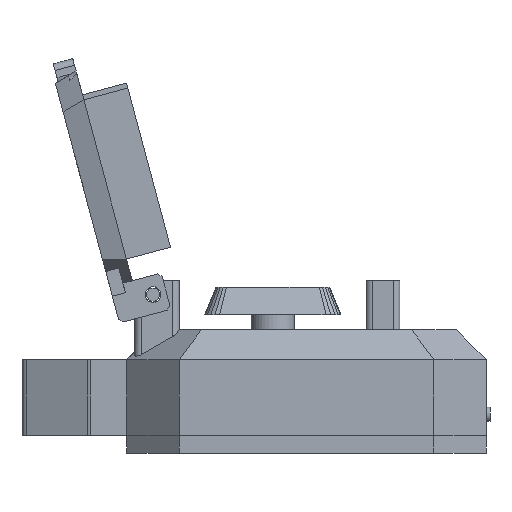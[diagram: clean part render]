
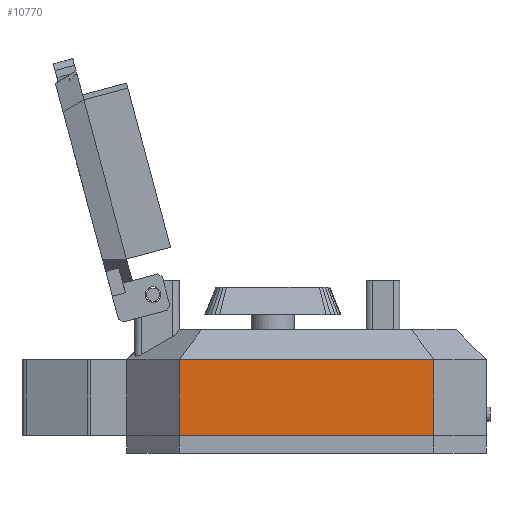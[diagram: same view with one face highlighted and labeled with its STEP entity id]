
A CAD part, left-side view. The second image highlights one B-rep face of the part: STEP entity #10770.
In plain terms, the highlighted planar face has unit normal (-1, 0, 0).
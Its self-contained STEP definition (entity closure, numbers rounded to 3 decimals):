
#94 = PLANE('',#95);
#95 = AXIS2_PLACEMENT_3D('',#96,#97,#98);
#96 = CARTESIAN_POINT('',(0.,0.,2.4));
#97 = DIRECTION('',(0.,0.,1.));
#98 = DIRECTION('',(1.,0.,-0.));
#122 = PLANE('',#123);
#123 = AXIS2_PLACEMENT_3D('',#124,#125,#126);
#124 = CARTESIAN_POINT('',(-27.,-17.,2.4));
#125 = DIRECTION('',(0.707,0.707,-0.));
#126 = DIRECTION('',(0.707,-0.707,0.));
#8214 = B_SPLINE_SURFACE_WITH_KNOTS('',1,1,(
    (#8215,#8216)
    ,(#8217,#8218
    )),.UNSPECIFIED.,.F.,.F.,.F.,(2,2),(2,2),(0.,34.),(0.,1.),
  .PIECEWISE_BEZIER_KNOTS.);
#8215 = CARTESIAN_POINT('',(-27.,17.,12.5));
#8216 = CARTESIAN_POINT('',(-23.,14.037,16.5));
#8217 = CARTESIAN_POINT('',(-27.,-17.,12.5));
#8218 = CARTESIAN_POINT('',(-23.,-14.037,16.5));
#10286 = VERTEX_POINT('',#10287);
#10287 = CARTESIAN_POINT('',(-27.,17.,12.5));
#10300 = PLANE('',#10301);
#10301 = AXIS2_PLACEMENT_3D('',#10302,#10303,#10304);
#10302 = CARTESIAN_POINT('',(-20.,24.,2.4));
#10303 = DIRECTION('',(0.707,-0.707,0.));
#10304 = DIRECTION('',(-0.707,-0.707,0.));
#10722 = EDGE_CURVE('',#10723,#10286,#10725,.T.);
#10723 = VERTEX_POINT('',#10724);
#10724 = CARTESIAN_POINT('',(-27.,17.,2.4));
#10725 = SURFACE_CURVE('',#10726,(#10730,#10737),.PCURVE_S1.);
#10726 = LINE('',#10727,#10728);
#10727 = CARTESIAN_POINT('',(-27.,17.,2.4));
#10728 = VECTOR('',#10729,1.);
#10729 = DIRECTION('',(0.,0.,1.));
#10730 = PCURVE('',#10300,#10731);
#10731 = DEFINITIONAL_REPRESENTATION('',(#10732),#10736);
#10732 = LINE('',#10733,#10734);
#10733 = CARTESIAN_POINT('',(9.899,0.));
#10734 = VECTOR('',#10735,1.);
#10735 = DIRECTION('',(0.,-1.));
#10736 = ( GEOMETRIC_REPRESENTATION_CONTEXT(2) 
PARAMETRIC_REPRESENTATION_CONTEXT() REPRESENTATION_CONTEXT('2D SPACE',''
  ) );
#10737 = PCURVE('',#10738,#10743);
#10738 = PLANE('',#10739);
#10739 = AXIS2_PLACEMENT_3D('',#10740,#10741,#10742);
#10740 = CARTESIAN_POINT('',(-27.,17.,2.4));
#10741 = DIRECTION('',(1.,0.,-0.));
#10742 = DIRECTION('',(0.,-1.,0.));
#10743 = DEFINITIONAL_REPRESENTATION('',(#10744),#10748);
#10744 = LINE('',#10745,#10746);
#10745 = CARTESIAN_POINT('',(0.,0.));
#10746 = VECTOR('',#10747,1.);
#10747 = DIRECTION('',(0.,-1.));
#10748 = ( GEOMETRIC_REPRESENTATION_CONTEXT(2) 
PARAMETRIC_REPRESENTATION_CONTEXT() REPRESENTATION_CONTEXT('2D SPACE',''
  ) );
#10770 = ADVANCED_FACE('',(#10771),#10738,.F.);
#10771 = FACE_BOUND('',#10772,.F.);
#10772 = EDGE_LOOP('',(#10773,#10774,#10796,#10819));
#10773 = ORIENTED_EDGE('',*,*,#10722,.T.);
#10774 = ORIENTED_EDGE('',*,*,#10775,.T.);
#10775 = EDGE_CURVE('',#10286,#10776,#10778,.T.);
#10776 = VERTEX_POINT('',#10777);
#10777 = CARTESIAN_POINT('',(-27.,-17.,12.5));
#10778 = SURFACE_CURVE('',#10779,(#10783,#10790),.PCURVE_S1.);
#10779 = LINE('',#10780,#10781);
#10780 = CARTESIAN_POINT('',(-27.,17.,12.5));
#10781 = VECTOR('',#10782,1.);
#10782 = DIRECTION('',(0.,-1.,0.));
#10783 = PCURVE('',#10738,#10784);
#10784 = DEFINITIONAL_REPRESENTATION('',(#10785),#10789);
#10785 = LINE('',#10786,#10787);
#10786 = CARTESIAN_POINT('',(0.,-10.1));
#10787 = VECTOR('',#10788,1.);
#10788 = DIRECTION('',(1.,0.));
#10789 = ( GEOMETRIC_REPRESENTATION_CONTEXT(2) 
PARAMETRIC_REPRESENTATION_CONTEXT() REPRESENTATION_CONTEXT('2D SPACE',''
  ) );
#10790 = PCURVE('',#8214,#10791);
#10791 = DEFINITIONAL_REPRESENTATION('',(#10792),#10795);
#10792 = B_SPLINE_CURVE_WITH_KNOTS('',1,(#10793,#10794),.UNSPECIFIED.,
  .F.,.F.,(2,2),(0.,34.),.PIECEWISE_BEZIER_KNOTS.);
#10793 = CARTESIAN_POINT('',(0.,0.));
#10794 = CARTESIAN_POINT('',(34.,0.));
#10795 = ( GEOMETRIC_REPRESENTATION_CONTEXT(2) 
PARAMETRIC_REPRESENTATION_CONTEXT() REPRESENTATION_CONTEXT('2D SPACE',''
  ) );
#10796 = ORIENTED_EDGE('',*,*,#10797,.F.);
#10797 = EDGE_CURVE('',#10798,#10776,#10800,.T.);
#10798 = VERTEX_POINT('',#10799);
#10799 = CARTESIAN_POINT('',(-27.,-17.,2.4));
#10800 = SURFACE_CURVE('',#10801,(#10805,#10812),.PCURVE_S1.);
#10801 = LINE('',#10802,#10803);
#10802 = CARTESIAN_POINT('',(-27.,-17.,2.4));
#10803 = VECTOR('',#10804,1.);
#10804 = DIRECTION('',(0.,0.,1.));
#10805 = PCURVE('',#10738,#10806);
#10806 = DEFINITIONAL_REPRESENTATION('',(#10807),#10811);
#10807 = LINE('',#10808,#10809);
#10808 = CARTESIAN_POINT('',(34.,0.));
#10809 = VECTOR('',#10810,1.);
#10810 = DIRECTION('',(0.,-1.));
#10811 = ( GEOMETRIC_REPRESENTATION_CONTEXT(2) 
PARAMETRIC_REPRESENTATION_CONTEXT() REPRESENTATION_CONTEXT('2D SPACE',''
  ) );
#10812 = PCURVE('',#122,#10813);
#10813 = DEFINITIONAL_REPRESENTATION('',(#10814),#10818);
#10814 = LINE('',#10815,#10816);
#10815 = CARTESIAN_POINT('',(0.,0.));
#10816 = VECTOR('',#10817,1.);
#10817 = DIRECTION('',(0.,-1.));
#10818 = ( GEOMETRIC_REPRESENTATION_CONTEXT(2) 
PARAMETRIC_REPRESENTATION_CONTEXT() REPRESENTATION_CONTEXT('2D SPACE',''
  ) );
#10819 = ORIENTED_EDGE('',*,*,#10820,.F.);
#10820 = EDGE_CURVE('',#10723,#10798,#10821,.T.);
#10821 = SURFACE_CURVE('',#10822,(#10826,#10833),.PCURVE_S1.);
#10822 = LINE('',#10823,#10824);
#10823 = CARTESIAN_POINT('',(-27.,17.,2.4));
#10824 = VECTOR('',#10825,1.);
#10825 = DIRECTION('',(0.,-1.,0.));
#10826 = PCURVE('',#10738,#10827);
#10827 = DEFINITIONAL_REPRESENTATION('',(#10828),#10832);
#10828 = LINE('',#10829,#10830);
#10829 = CARTESIAN_POINT('',(0.,0.));
#10830 = VECTOR('',#10831,1.);
#10831 = DIRECTION('',(1.,0.));
#10832 = ( GEOMETRIC_REPRESENTATION_CONTEXT(2) 
PARAMETRIC_REPRESENTATION_CONTEXT() REPRESENTATION_CONTEXT('2D SPACE',''
  ) );
#10833 = PCURVE('',#94,#10834);
#10834 = DEFINITIONAL_REPRESENTATION('',(#10835),#10839);
#10835 = LINE('',#10836,#10837);
#10836 = CARTESIAN_POINT('',(-27.,17.));
#10837 = VECTOR('',#10838,1.);
#10838 = DIRECTION('',(0.,-1.));
#10839 = ( GEOMETRIC_REPRESENTATION_CONTEXT(2) 
PARAMETRIC_REPRESENTATION_CONTEXT() REPRESENTATION_CONTEXT('2D SPACE',''
  ) );
